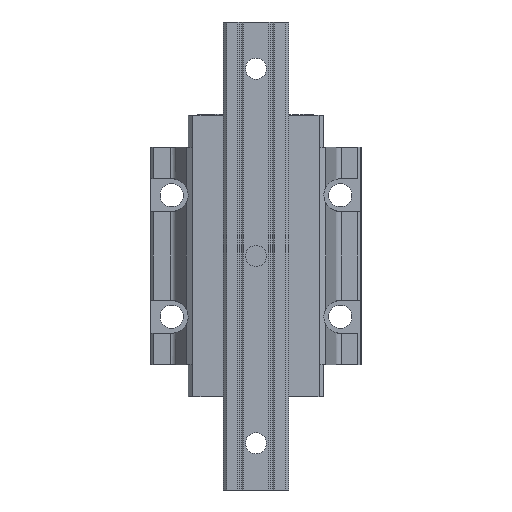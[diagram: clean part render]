
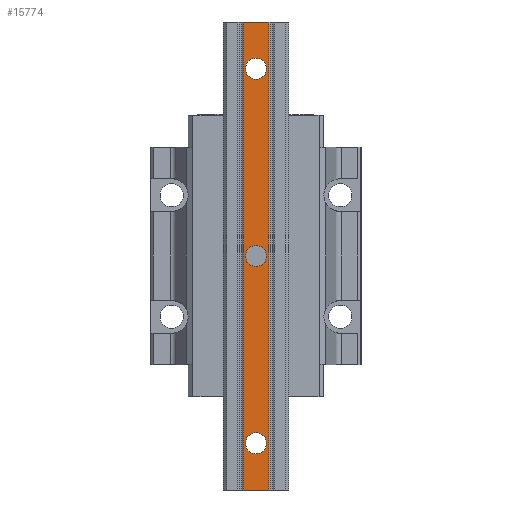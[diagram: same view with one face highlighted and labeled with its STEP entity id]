
A CAD part, front view. The second image highlights one B-rep face of the part: STEP entity #15774.
In plain terms, the highlighted planar face has unit normal (0, -1, 0).
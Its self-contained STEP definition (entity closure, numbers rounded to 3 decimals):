
#14428=DIRECTION('',(1.,0.,0.));
#14429=VECTOR('',#14428,11.1);
#14430=CARTESIAN_POINT('',(-5.55,-26.,-100.));
#14431=LINE('',#14430,#14429);
#14592=DIRECTION('',(0.,0.,1.));
#14593=VECTOR('',#14592,200.);
#14594=CARTESIAN_POINT('',(5.55,-26.,-100.));
#14595=LINE('',#14594,#14593);
#14596=DIRECTION('',(0.,0.,1.));
#14597=VECTOR('',#14596,200.);
#14598=CARTESIAN_POINT('',(-5.55,-26.,-100.));
#14599=LINE('',#14598,#14597);
#14600=CARTESIAN_POINT('',(0.,-26.,0.));
#14601=DIRECTION('',(0.,1.,0.));
#14602=DIRECTION('',(-1.,0.,0.));
#14603=AXIS2_PLACEMENT_3D('',#14600,#14601,#14602);
#14605=CARTESIAN_POINT('',(0.,-26.,0.));
#14606=DIRECTION('',(0.,1.,0.));
#14607=DIRECTION('',(1.,0.,0.));
#14608=AXIS2_PLACEMENT_3D('',#14605,#14606,#14607);
#14610=CARTESIAN_POINT('',(0.,-26.,80.));
#14611=DIRECTION('',(0.,1.,0.));
#14612=DIRECTION('',(-1.,0.,0.));
#14613=AXIS2_PLACEMENT_3D('',#14610,#14611,#14612);
#14615=CARTESIAN_POINT('',(0.,-26.,80.));
#14616=DIRECTION('',(0.,1.,0.));
#14617=DIRECTION('',(1.,0.,0.));
#14618=AXIS2_PLACEMENT_3D('',#14615,#14616,#14617);
#14620=CARTESIAN_POINT('',(0.,-26.,-80.));
#14621=DIRECTION('',(0.,1.,0.));
#14622=DIRECTION('',(-1.,0.,0.));
#14623=AXIS2_PLACEMENT_3D('',#14620,#14621,#14622);
#14625=CARTESIAN_POINT('',(0.,-26.,-80.));
#14626=DIRECTION('',(0.,1.,0.));
#14627=DIRECTION('',(1.,0.,0.));
#14628=AXIS2_PLACEMENT_3D('',#14625,#14626,#14627);
#14864=DIRECTION('',(1.,0.,0.));
#14865=VECTOR('',#14864,11.1);
#14866=CARTESIAN_POINT('',(-5.55,-26.,100.));
#14867=LINE('',#14866,#14865);
#15166=CARTESIAN_POINT('',(-5.55,-26.,-100.));
#15167=VERTEX_POINT('',#15166);
#15168=CARTESIAN_POINT('',(5.55,-26.,-100.));
#15169=VERTEX_POINT('',#15168);
#15266=CARTESIAN_POINT('',(-5.55,-26.,100.));
#15267=VERTEX_POINT('',#15266);
#15268=CARTESIAN_POINT('',(5.55,-26.,100.));
#15269=VERTEX_POINT('',#15268);
#15306=CARTESIAN_POINT('',(-4.5,-26.,0.));
#15307=CARTESIAN_POINT('',(4.5,-26.,0.));
#15308=VERTEX_POINT('',#15306);
#15309=VERTEX_POINT('',#15307);
#15310=CARTESIAN_POINT('',(-4.5,-26.,80.));
#15311=CARTESIAN_POINT('',(4.5,-26.,80.));
#15312=VERTEX_POINT('',#15310);
#15313=VERTEX_POINT('',#15311);
#15314=CARTESIAN_POINT('',(-4.5,-26.,-80.));
#15315=CARTESIAN_POINT('',(4.5,-26.,-80.));
#15316=VERTEX_POINT('',#15314);
#15317=VERTEX_POINT('',#15315);
#15743=CARTESIAN_POINT('',(-5.55,-26.,-100.));
#15744=DIRECTION('',(0.,-1.,0.));
#15745=DIRECTION('',(1.,0.,0.));
#15746=AXIS2_PLACEMENT_3D('',#15743,#15744,#15745);
#15747=PLANE('',#15746);
#15748=ORIENTED_EDGE('',*,*,#15419,.F.);
#15750=ORIENTED_EDGE('',*,*,#15749,.T.);
#15752=ORIENTED_EDGE('',*,*,#15751,.T.);
#15753=ORIENTED_EDGE('',*,*,#15735,.F.);
#15754=EDGE_LOOP('',(#15748,#15750,#15752,#15753));
#15755=FACE_OUTER_BOUND('',#15754,.F.);
#15757=ORIENTED_EDGE('',*,*,#15756,.F.);
#15759=ORIENTED_EDGE('',*,*,#15758,.F.);
#15760=EDGE_LOOP('',(#15757,#15759));
#15761=FACE_BOUND('',#15760,.F.);
#15763=ORIENTED_EDGE('',*,*,#15762,.F.);
#15765=ORIENTED_EDGE('',*,*,#15764,.F.);
#15766=EDGE_LOOP('',(#15763,#15765));
#15767=FACE_BOUND('',#15766,.F.);
#15769=ORIENTED_EDGE('',*,*,#15768,.F.);
#15771=ORIENTED_EDGE('',*,*,#15770,.F.);
#15772=EDGE_LOOP('',(#15769,#15771));
#15773=FACE_BOUND('',#15772,.F.);
#15774=ADVANCED_FACE('',(#15755,#15761,#15767,#15773),#15747,.T.);
#14604=CIRCLE('',#14603,4.5);
#14609=CIRCLE('',#14608,4.5);
#14614=CIRCLE('',#14613,4.5);
#14619=CIRCLE('',#14618,4.5);
#14624=CIRCLE('',#14623,4.5);
#14629=CIRCLE('',#14628,4.5);
#15419=EDGE_CURVE('',#15167,#15169,#14431,.T.);
#15735=EDGE_CURVE('',#15169,#15269,#14595,.T.);
#15749=EDGE_CURVE('',#15167,#15267,#14599,.T.);
#15751=EDGE_CURVE('',#15267,#15269,#14867,.T.);
#15756=EDGE_CURVE('',#15308,#15309,#14604,.T.);
#15758=EDGE_CURVE('',#15309,#15308,#14609,.T.);
#15762=EDGE_CURVE('',#15312,#15313,#14614,.T.);
#15764=EDGE_CURVE('',#15313,#15312,#14619,.T.);
#15768=EDGE_CURVE('',#15316,#15317,#14624,.T.);
#15770=EDGE_CURVE('',#15317,#15316,#14629,.T.);
